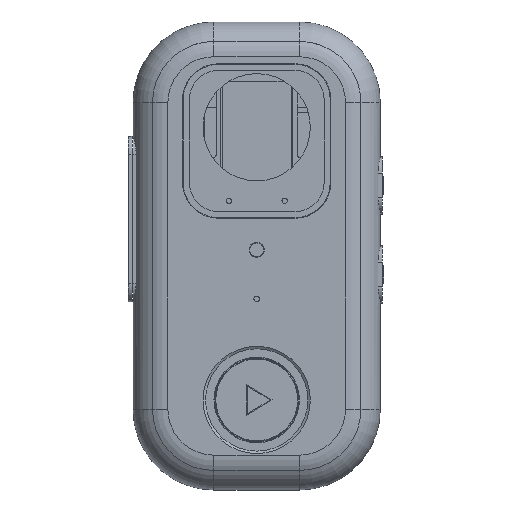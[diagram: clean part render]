
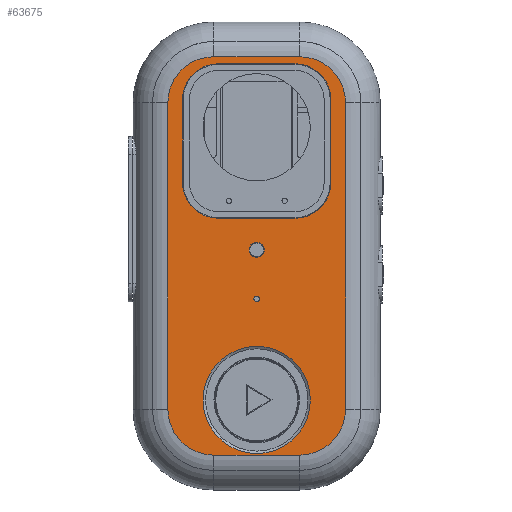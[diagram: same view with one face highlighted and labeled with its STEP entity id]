
A CAD part, top view. The second image highlights one B-rep face of the part: STEP entity #63675.
In plain terms, the highlighted planar face has unit normal (0, 0, 1).
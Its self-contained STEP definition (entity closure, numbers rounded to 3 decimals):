
#652=FACE_BOUND('',#7832,.T.);
#653=FACE_BOUND('',#7833,.T.);
#654=FACE_BOUND('',#7834,.T.);
#655=FACE_BOUND('',#7835,.T.);
#4296=FACE_OUTER_BOUND('',#7831,.T.);
#7831=EDGE_LOOP('',(#51117,#51118,#51119,#51120,#51121,#51122,#51123,#51124));
#7832=EDGE_LOOP('',(#51125));
#7833=EDGE_LOOP('',(#51126,#51127,#51128,#51129,#51130,#51131,#51132,#51133));
#7834=EDGE_LOOP('',(#51134));
#7835=EDGE_LOOP('',(#51135));
#10657=CIRCLE('',#68254,11.7);
#10658=CIRCLE('',#68257,11.7);
#10659=CIRCLE('',#68260,11.7);
#10660=CIRCLE('',#68263,11.7);
#10902=CIRCLE('',#68971,15.);
#10903=CIRCLE('',#68972,15.);
#10904=CIRCLE('',#68973,15.);
#10905=CIRCLE('',#68974,15.);
#10906=CIRCLE('',#68975,2.45);
#10907=CIRCLE('',#68976,17.5);
#10908=CIRCLE('',#68977,0.9);
#14777=LINE('',#109596,#21084);
#14781=LINE('',#109605,#21088);
#14784=LINE('',#109613,#21091);
#14787=LINE('',#109621,#21094);
#15699=LINE('',#113435,#22006);
#15700=LINE('',#113439,#22007);
#15701=LINE('',#113443,#22008);
#15702=LINE('',#113447,#22009);
#21084=VECTOR('',#79966,1.);
#21088=VECTOR('',#79976,1.);
#21091=VECTOR('',#79985,1.);
#21094=VECTOR('',#79994,1.);
#22006=VECTOR('',#82324,1.);
#22007=VECTOR('',#82327,1.);
#22008=VECTOR('',#82330,1.);
#22009=VECTOR('',#82333,1.);
#27585=VERTEX_POINT('',#109594);
#27586=VERTEX_POINT('',#109595);
#27587=VERTEX_POINT('',#109600);
#27588=VERTEX_POINT('',#109604);
#27589=VERTEX_POINT('',#109608);
#27590=VERTEX_POINT('',#109612);
#27591=VERTEX_POINT('',#109616);
#27592=VERTEX_POINT('',#109620);
#28369=VERTEX_POINT('',#113433);
#28370=VERTEX_POINT('',#113434);
#28371=VERTEX_POINT('',#113436);
#28372=VERTEX_POINT('',#113438);
#28373=VERTEX_POINT('',#113440);
#28374=VERTEX_POINT('',#113442);
#28375=VERTEX_POINT('',#113444);
#28376=VERTEX_POINT('',#113446);
#28377=VERTEX_POINT('',#113449);
#28378=VERTEX_POINT('',#113451);
#28379=VERTEX_POINT('',#113453);
#35285=EDGE_CURVE('',#27585,#27586,#14777,.T.);
#35288=EDGE_CURVE('',#27587,#27585,#10657,.T.);
#35290=EDGE_CURVE('',#27588,#27587,#14781,.T.);
#35292=EDGE_CURVE('',#27589,#27588,#10658,.T.);
#35294=EDGE_CURVE('',#27590,#27589,#14784,.T.);
#35296=EDGE_CURVE('',#27591,#27590,#10659,.T.);
#35298=EDGE_CURVE('',#27592,#27591,#14787,.T.);
#35300=EDGE_CURVE('',#27586,#27592,#10660,.T.);
#36529=EDGE_CURVE('',#28369,#28370,#15699,.T.);
#36530=EDGE_CURVE('',#28371,#28369,#10902,.T.);
#36531=EDGE_CURVE('',#28372,#28371,#15700,.T.);
#36532=EDGE_CURVE('',#28373,#28372,#10903,.T.);
#36533=EDGE_CURVE('',#28374,#28373,#15701,.T.);
#36534=EDGE_CURVE('',#28375,#28374,#10904,.T.);
#36535=EDGE_CURVE('',#28376,#28375,#15702,.T.);
#36536=EDGE_CURVE('',#28370,#28376,#10905,.T.);
#36537=EDGE_CURVE('',#28377,#28377,#10906,.T.);
#36538=EDGE_CURVE('',#28378,#28378,#10907,.T.);
#36539=EDGE_CURVE('',#28379,#28379,#10908,.T.);
#51117=ORIENTED_EDGE('',*,*,#36529,.F.);
#51118=ORIENTED_EDGE('',*,*,#36530,.F.);
#51119=ORIENTED_EDGE('',*,*,#36531,.F.);
#51120=ORIENTED_EDGE('',*,*,#36532,.F.);
#51121=ORIENTED_EDGE('',*,*,#36533,.F.);
#51122=ORIENTED_EDGE('',*,*,#36534,.F.);
#51123=ORIENTED_EDGE('',*,*,#36535,.F.);
#51124=ORIENTED_EDGE('',*,*,#36536,.F.);
#51125=ORIENTED_EDGE('',*,*,#36537,.T.);
#51126=ORIENTED_EDGE('',*,*,#35290,.T.);
#51127=ORIENTED_EDGE('',*,*,#35288,.T.);
#51128=ORIENTED_EDGE('',*,*,#35285,.T.);
#51129=ORIENTED_EDGE('',*,*,#35300,.T.);
#51130=ORIENTED_EDGE('',*,*,#35298,.T.);
#51131=ORIENTED_EDGE('',*,*,#35296,.T.);
#51132=ORIENTED_EDGE('',*,*,#35294,.T.);
#51133=ORIENTED_EDGE('',*,*,#35292,.T.);
#51134=ORIENTED_EDGE('',*,*,#36538,.T.);
#51135=ORIENTED_EDGE('',*,*,#36539,.T.);
#60761=PLANE('',#68970);
#63675=ADVANCED_FACE('',(#4296,#652,#653,#654,#655),#60761,.T.);
#68254=AXIS2_PLACEMENT_3D('',#109601,#79971,#79972);
#68257=AXIS2_PLACEMENT_3D('',#109609,#79980,#79981);
#68260=AXIS2_PLACEMENT_3D('',#109617,#79989,#79990);
#68263=AXIS2_PLACEMENT_3D('',#109624,#79998,#79999);
#68970=AXIS2_PLACEMENT_3D('',#113432,#82322,#82323);
#68971=AXIS2_PLACEMENT_3D('',#113437,#82325,#82326);
#68972=AXIS2_PLACEMENT_3D('',#113441,#82328,#82329);
#68973=AXIS2_PLACEMENT_3D('',#113445,#82331,#82332);
#68974=AXIS2_PLACEMENT_3D('',#113448,#82334,#82335);
#68975=AXIS2_PLACEMENT_3D('',#113450,#82336,#82337);
#68976=AXIS2_PLACEMENT_3D('',#113452,#82338,#82339);
#68977=AXIS2_PLACEMENT_3D('',#113454,#82340,#82341);
#79966=DIRECTION('',(0.,-1.,0.));
#79971=DIRECTION('center_axis',(0.,0.,-1.));
#79972=DIRECTION('ref_axis',(1.,0.,0.));
#79976=DIRECTION('',(1.,0.,0.));
#79980=DIRECTION('center_axis',(0.,0.,-1.));
#79981=DIRECTION('ref_axis',(1.,0.,0.));
#79985=DIRECTION('',(0.,1.,0.));
#79989=DIRECTION('center_axis',(0.,0.,-1.));
#79990=DIRECTION('ref_axis',(1.,0.,0.));
#79994=DIRECTION('',(-1.,0.,0.));
#79998=DIRECTION('center_axis',(0.,0.,-1.));
#79999=DIRECTION('ref_axis',(1.,0.,0.));
#82322=DIRECTION('center_axis',(0.,0.,1.));
#82323=DIRECTION('ref_axis',(1.,0.,0.));
#82324=DIRECTION('',(0.,1.,0.));
#82325=DIRECTION('center_axis',(0.,0.,-1.));
#82326=DIRECTION('ref_axis',(-0.707,-0.707,0.));
#82327=DIRECTION('',(-1.,0.,0.));
#82328=DIRECTION('center_axis',(0.,0.,-1.));
#82329=DIRECTION('ref_axis',(0.707,-0.707,0.));
#82330=DIRECTION('',(0.,-1.,0.));
#82331=DIRECTION('center_axis',(0.,0.,-1.));
#82332=DIRECTION('ref_axis',(0.707,0.707,0.));
#82333=DIRECTION('',(1.,0.,0.));
#82334=DIRECTION('center_axis',(0.,0.,-1.));
#82335=DIRECTION('ref_axis',(-0.707,0.707,0.));
#82336=DIRECTION('center_axis',(0.,0.,-1.));
#82337=DIRECTION('ref_axis',(1.,0.,0.));
#82338=DIRECTION('center_axis',(0.,0.,-1.));
#82339=DIRECTION('ref_axis',(1.,0.,0.));
#82340=DIRECTION('center_axis',(0.,0.,-1.));
#82341=DIRECTION('ref_axis',(-1.,0.,0.));
#109594=CARTESIAN_POINT('',(24.2,51.,0.));
#109595=CARTESIAN_POINT('',(24.2,24.,0.));
#109596=CARTESIAN_POINT('',(24.2,18.75,0.));
#109600=CARTESIAN_POINT('',(12.5,62.7,0.));
#109601=CARTESIAN_POINT('Origin',(12.5,51.,0.));
#109604=CARTESIAN_POINT('',(-12.5,62.7,0.));
#109605=CARTESIAN_POINT('',(0.,62.7,0.));
#109608=CARTESIAN_POINT('',(-24.2,51.,0.));
#109609=CARTESIAN_POINT('Origin',(-12.5,51.,0.));
#109612=CARTESIAN_POINT('',(-24.2,24.,0.));
#109613=CARTESIAN_POINT('',(-24.2,18.75,0.));
#109616=CARTESIAN_POINT('',(-12.5,12.3,0.));
#109617=CARTESIAN_POINT('Origin',(-12.5,24.,0.));
#109620=CARTESIAN_POINT('',(12.5,12.3,0.));
#109621=CARTESIAN_POINT('',(0.,12.3,0.));
#109624=CARTESIAN_POINT('Origin',(12.5,24.,0.));
#113432=CARTESIAN_POINT('Origin',(0.,0.,0.));
#113433=CARTESIAN_POINT('',(-29.,-50.,0.));
#113434=CARTESIAN_POINT('',(-29.,50.,0.));
#113435=CARTESIAN_POINT('',(-29.,0.,0.));
#113436=CARTESIAN_POINT('',(-14.,-65.,0.));
#113437=CARTESIAN_POINT('Origin',(-14.,-50.,0.));
#113438=CARTESIAN_POINT('',(14.,-65.,0.));
#113439=CARTESIAN_POINT('',(0.,-65.,0.));
#113440=CARTESIAN_POINT('',(29.,-50.,0.));
#113441=CARTESIAN_POINT('Origin',(14.,-50.,0.));
#113442=CARTESIAN_POINT('',(29.,50.,0.));
#113443=CARTESIAN_POINT('',(29.,0.,0.));
#113444=CARTESIAN_POINT('',(14.,65.,0.));
#113445=CARTESIAN_POINT('Origin',(14.,50.,0.));
#113446=CARTESIAN_POINT('',(-14.,65.,0.));
#113447=CARTESIAN_POINT('',(0.,65.,0.));
#113448=CARTESIAN_POINT('Origin',(-14.,50.,0.));
#113449=CARTESIAN_POINT('',(-2.45,2.,0.));
#113450=CARTESIAN_POINT('Origin',(0.,2.,0.));
#113451=CARTESIAN_POINT('',(-17.5,-47.,0.));
#113452=CARTESIAN_POINT('Origin',(0.,-47.,0.));
#113453=CARTESIAN_POINT('',(0.9,-14.,0.));
#113454=CARTESIAN_POINT('Origin',(0.,-14.,0.));
